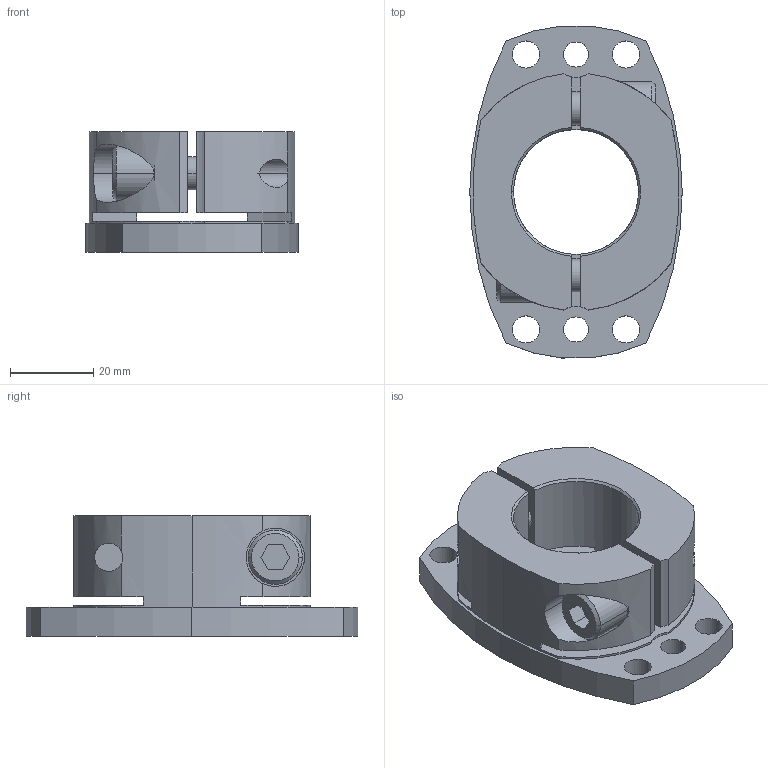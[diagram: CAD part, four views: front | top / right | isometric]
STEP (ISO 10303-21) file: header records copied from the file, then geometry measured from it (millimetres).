
FILE_DESCRIPTION((''),'2;1');
FILE_NAME('SHDB-80B-30.stp','2026-01-28T08:30:56',(''),(''),'AutoCAD STEP 2000i','AutoCAD 2000i',', , ');
FILE_SCHEMA(('CONFIG_CONTROL_DESIGN'));
Length unit declared in the file: millimetre
Products named in the file (2): SHDB-80B-28; 忣兜1
Assembly tree (1 placements, depth 2):
  SHDB-80B-28
    忣兜1
Bounding box: 51 x 79.7 x 29 mm (x, y, z)
Volume: 49778.1 mm3; surface area: 18787.6 mm2
Topology: 1 solids, 1 shells, 102 faces, 280 edges, 184 vertices
Faces by surface type: cylinder 58, plane 34, cone 10
Entity records: 3695 total; most frequent: CARTESIAN_POINT 868, DIRECTION 602, ORIENTED_EDGE 560, EDGE_CURVE 280, AXIS2_PLACEMENT_3D 238, VERTEX_POINT 184, CIRCLE 134, VECTOR 126
